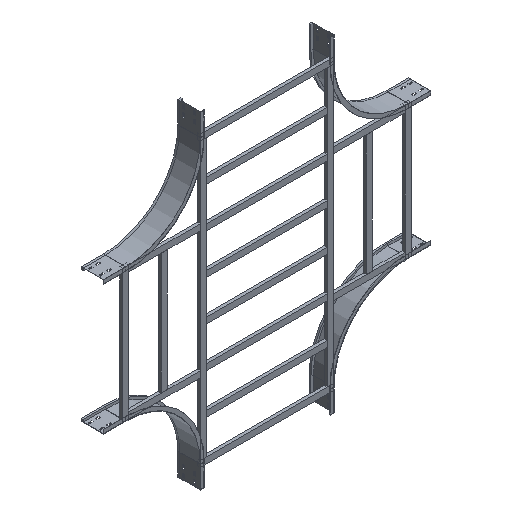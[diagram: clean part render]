
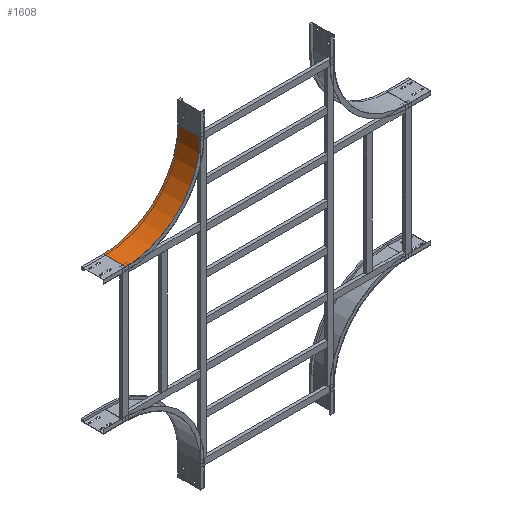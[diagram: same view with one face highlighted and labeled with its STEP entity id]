
A CAD part, isometric view. The second image highlights one B-rep face of the part: STEP entity #1608.
In plain terms, the highlighted cylindrical face has radius 500 mm (diameter 1000 mm), a partial arc.
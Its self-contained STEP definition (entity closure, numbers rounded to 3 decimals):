
#36 = EDGE_CURVE ( 'NONE', #2832, #2689, #1401, .T. ) ;
#38 = VERTEX_POINT ( 'NONE', #1829 ) ;
#253 = CARTESIAN_POINT ( 'NONE',  ( 500., 0., -150. ) ) ;
#261 = CARTESIAN_POINT ( 'NONE',  ( 500., 0., -650. ) ) ;
#284 = AXIS2_PLACEMENT_3D ( 'NONE', #253, #2545, #1638 ) ;
#395 = DIRECTION ( 'NONE',  ( 0., -1., 0. ) ) ;
#401 = DIRECTION ( 'NONE',  ( -1., 0., 0. ) ) ;
#446 = DIRECTION ( 'NONE',  ( -1., 0., 0. ) ) ;
#623 = CARTESIAN_POINT ( 'NONE',  ( 500., 150., -650. ) ) ;
#629 = CIRCLE ( 'NONE', #2299, 500. ) ;
#722 = VERTEX_POINT ( 'NONE', #1254 ) ;
#782 = ORIENTED_EDGE ( 'NONE', *, *, #1130, .T. ) ;
#908 = DIRECTION ( 'NONE',  ( 0., 1., 0. ) ) ;
#1121 = VECTOR ( 'NONE', #908, 1000. ) ;
#1130 = EDGE_CURVE ( 'NONE', #722, #2832, #629, .T. ) ;
#1179 = LINE ( 'NONE', #2355, #1773 ) ;
#1254 = CARTESIAN_POINT ( 'NONE',  ( 0., 0., -150. ) ) ;
#1401 = LINE ( 'NONE', #261, #1121 ) ;
#1435 = AXIS2_PLACEMENT_3D ( 'NONE', #2261, #1766, #401 ) ;
#1553 = EDGE_CURVE ( 'NONE', #38, #2689, #2343, .T. ) ;
#1575 = ORIENTED_EDGE ( 'NONE', *, *, #36, .T. ) ;
#1608 = ADVANCED_FACE ( 'NONE', ( #2044 ), #1862, .F. ) ;
#1620 = DIRECTION ( 'NONE',  ( 0., 1., 0. ) ) ;
#1638 = DIRECTION ( 'NONE',  ( 0., 0., -1. ) ) ;
#1766 = DIRECTION ( 'NONE',  ( 0., -1., 0. ) ) ;
#1773 = VECTOR ( 'NONE', #1620, 1000. ) ;
#1829 = CARTESIAN_POINT ( 'NONE',  ( 0., 150., -150. ) ) ;
#1862 = CYLINDRICAL_SURFACE ( 'NONE', #284, 500. ) ;
#2032 = CARTESIAN_POINT ( 'NONE',  ( 500., 0., -650. ) ) ;
#2044 = FACE_OUTER_BOUND ( 'NONE', #2181, .T. ) ;
#2181 = EDGE_LOOP ( 'NONE', ( #2920, #2234, #782, #1575 ) ) ;
#2234 = ORIENTED_EDGE ( 'NONE', *, *, #2286, .F. ) ;
#2261 = CARTESIAN_POINT ( 'NONE',  ( 500., 150., -150. ) ) ;
#2286 = EDGE_CURVE ( 'NONE', #722, #38, #1179, .T. ) ;
#2299 = AXIS2_PLACEMENT_3D ( 'NONE', #2669, #395, #446 ) ;
#2343 = CIRCLE ( 'NONE', #1435, 500. ) ;
#2355 = CARTESIAN_POINT ( 'NONE',  ( 0., 0., -150. ) ) ;
#2545 = DIRECTION ( 'NONE',  ( 0., -1., 0. ) ) ;
#2669 = CARTESIAN_POINT ( 'NONE',  ( 500., 0., -150. ) ) ;
#2689 = VERTEX_POINT ( 'NONE', #623 ) ;
#2832 = VERTEX_POINT ( 'NONE', #2032 ) ;
#2920 = ORIENTED_EDGE ( 'NONE', *, *, #1553, .F. ) ;
